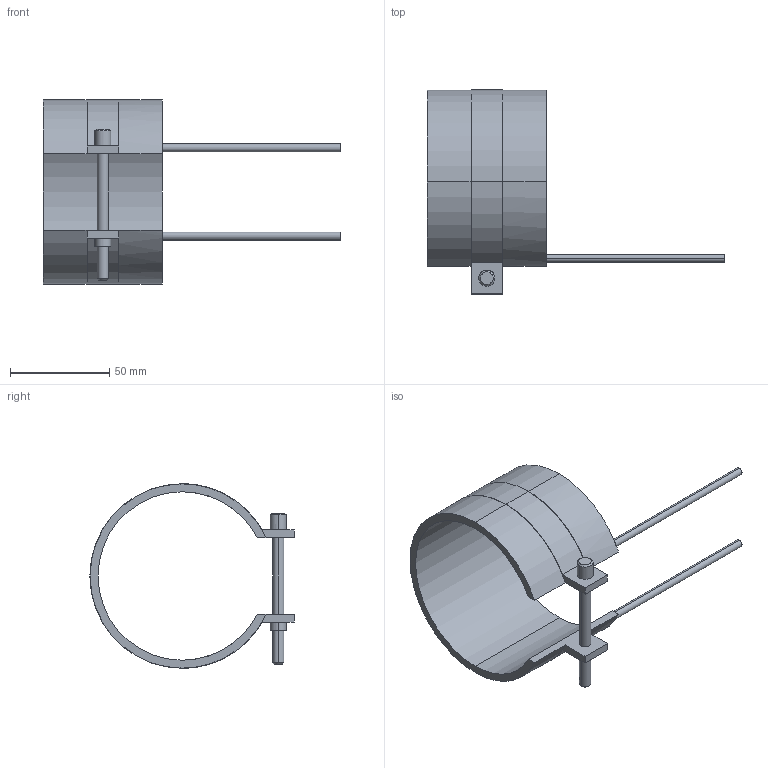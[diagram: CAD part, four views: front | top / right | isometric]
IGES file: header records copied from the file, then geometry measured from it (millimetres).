
Start section: START RECORD GO HERE.
Global section: file name: 14085060.igs; native system: DASSAULT SYSTEMES CATIA V5 R20 - www.3ds.com; preprocessor: CATIA Version 5 Release 20 ; author: Utente; organization: NB04-ASUS; date: 20210406.181501; units: millimetre
Bounding box: 150 x 103.1 x 93.2 mm (x, y, z)
Surface area: 35983.6 mm2 (no closed solid volume)
Topology: 0 solids, 0 shells, 45 faces, 232 edges, 232 vertices
Faces by surface type: revolution 28, plane 17
